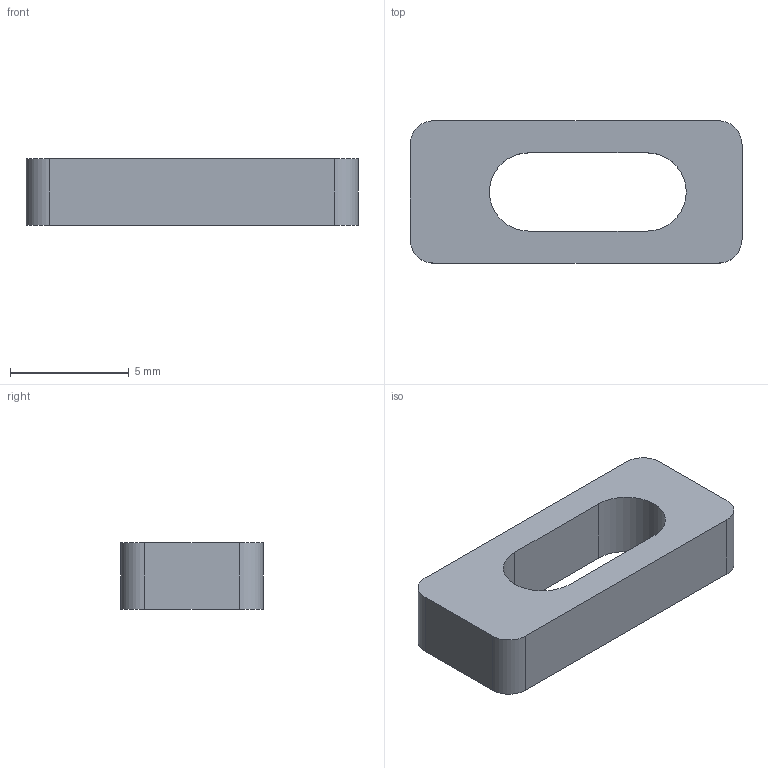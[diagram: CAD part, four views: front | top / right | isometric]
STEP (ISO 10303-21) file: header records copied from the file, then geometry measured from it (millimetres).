
FILE_DESCRIPTION(('Open CASCADE Model'),'2;1');
FILE_NAME('Open CASCADE Shape Model','2026-11-10T16:40:48',('Author'),( 'Open CASCADE'),'Open CASCADE STEP processor 7.9','Open CASCADE 7.9' ,'Unknown');
FILE_SCHEMA(('AUTOMOTIVE_DESIGN { 1 0 10303 214 1 1 1 1 }'));
Length unit declared in the file: millimetre
Products named in the file (1): Open CASCADE STEP translator 7.9 2
Bounding box: 14 x 6 x 2.8 mm (x, y, z)
Volume: 162.6 mm3; surface area: 280.4 mm2
Topology: 1 solids, 1 shells, 14 faces, 36 edges, 24 vertices
Faces by surface type: plane 8, cylinder 6
Entity records: 930 total; most frequent: CARTESIAN_POINT 203, DIRECTION 134, LINE 76, VECTOR 76, ORIENTED_EDGE 72, PCURVE 72, DEFINITIONAL_REPRESENTATION 72, EDGE_CURVE 36
